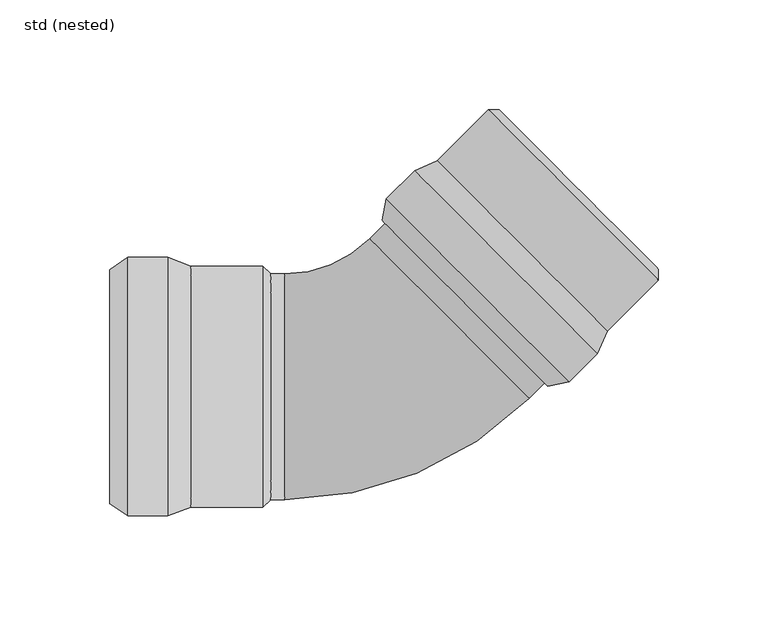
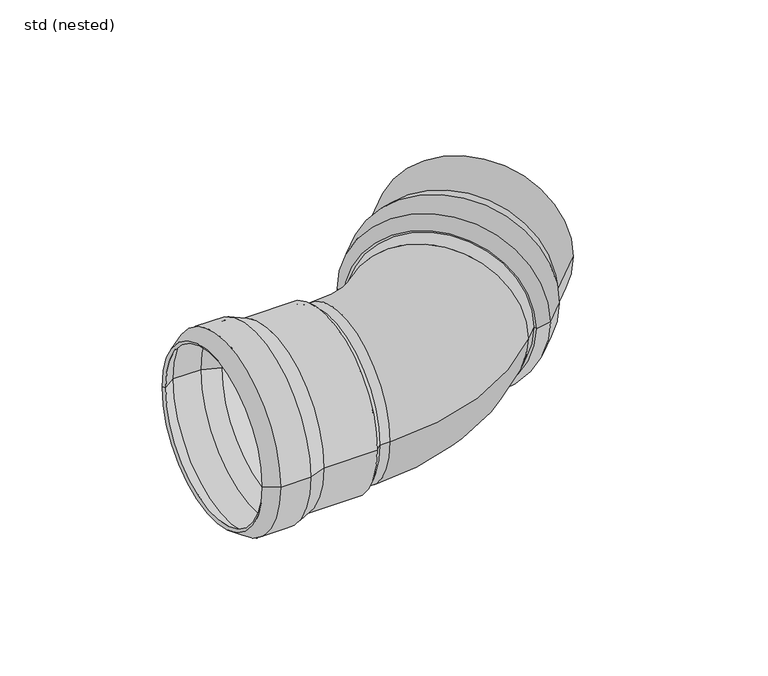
"""IFC4 building model written with IfcOpenShell, lengths in millimetres: pipe fitting geometry, ZZZ_do not use_PIF_ST_UN_GM-X pipe bend_ACO : std (nested)."""

from ifc_helpers import new_model, si_unit, point, frame, origin, place, context, project, spatial, polyline, circle_curve, ellipse_curve, trimmed, source, transform, mapped, element, save
from ifc_brep_helpers import plane_surface, cylinder_surface, revolved_surface, advanced_brep


def std_nested_d12045ae(model_context):
    return source(origin(), model_context, "Body", "AdvancedBrep", [
        advanced_brep(
        [(15.2631369, 98.6320772, 0.0), (98.6506778, 15.142449, 0.0), (85.773464, 2.2809808, 0.0), (2.3859231, 85.770609, 0.0), (25.518995, 103.2219981, 0.0), (103.2531434, 25.3926837, 0.0), (76.014181, 0.3070517, 0.0), (0.4000549, 76.0137485, 0.0), (48.8677894, 126.5422426, 0.0), (126.6019377, 48.7129282, 0.0), (53.8175359, 126.5392146, 0.0), (126.6049657, 53.6626747, 0.0), (51.3411486, 124.0658553, 0.0), (124.1285784, 51.1893155, 0.0), (26.6719325, 101.5468274, 0.0), (101.5793845, 26.5476698, 0.0), (125.1885895, 50.1280066, 0.0), (50.2811375, 125.1271642, 0.0), (16.4160743, 96.9569065, 0.0), (96.976919, 16.2974352, 0.0), (4.2255719, 84.78131, 0.0), (84.7864165, 4.1218387, 0.0), (2.3598725, 75.6148559, 0.0), (75.6176866, 2.2673558, 0.0)],
        [
            (0, 1, circle_curve(frame((56.9569074, 56.8872631, 0.0), z_axis=(-0.7075392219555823, -0.7066740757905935, 0.0), x_axis=(0.7066740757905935, -0.7075392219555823, 0.0)), 59.0)),
            (1, 2),
            (2, 3, circle_curve(frame((44.0796935, 44.0257949, 0.0), z_axis=(0.7075392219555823, 0.7066740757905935, 0.0), x_axis=(0.7066740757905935, -0.7075392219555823, 0.0)), 59.0)),
            (3, 0),
            (1, 0, circle_curve(frame((56.9569074, 56.8872631, 0.0), z_axis=(-0.7075392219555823, -0.7066740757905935, 0.0), x_axis=(0.7066740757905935, -0.7075392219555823, 0.0)), 59.0)),
            (3, 2, circle_curve(frame((44.0796935, 44.0257949, 0.0), z_axis=(0.7075392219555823, 0.7066740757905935, 0.0), x_axis=(0.7066740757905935, -0.7075392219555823, 0.0)), 59.0)),
            (4, 5, circle_curve(frame((64.3860692, 64.3073409, 0.0), z_axis=(-0.7075392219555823, -0.7066740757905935, 0.0), x_axis=(0.7066740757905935, -0.7075392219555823, 0.0)), 55.0)),
            (5, 1),
            (0, 4),
            (5, 4, circle_curve(frame((64.3860692, 64.3073409, 0.0), z_axis=(-0.7075392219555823, -0.7066740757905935, 0.0), x_axis=(0.7066740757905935, -0.7075392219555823, 0.0)), 55.0)),
            (2, 6),
            (6, 7, circle_curve(frame((38.207118, 38.1604001, 0.0), z_axis=(0.7075392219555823, 0.7066740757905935, 0.0), x_axis=(0.7066740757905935, -0.7075392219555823, 0.0)), 53.5)),
            (7, 3),
            (7, 6, circle_curve(frame((38.207118, 38.1604001, 0.0), z_axis=(0.7075392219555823, 0.7066740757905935, 0.0), x_axis=(0.7066740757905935, -0.7075392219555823, 0.0)), 53.5)),
            (8, 9, circle_curve(frame((87.7348635, 87.6275854, 0.0), z_axis=(-0.7075392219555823, -0.7066740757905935, 0.0), x_axis=(0.7066740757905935, -0.7075392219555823, 0.0)), 55.0)),
            (9, 5),
            (4, 8),
            (9, 8, circle_curve(frame((87.7348635, 87.6275854, 0.0), z_axis=(-0.7075392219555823, -0.7066740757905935, 0.0), x_axis=(0.7066740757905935, -0.7075392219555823, 0.0)), 55.0)),
            (10, 11, circle_curve(frame((90.2112508, 90.1009447, 0.0), z_axis=(-0.7075392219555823, -0.7066740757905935, 0.0), x_axis=(0.7066740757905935, -0.7075392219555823, 0.0)), 51.5)),
            (11, 9),
            (8, 10),
            (11, 10, circle_curve(frame((90.2112508, 90.1009447, 0.0), z_axis=(-0.7075392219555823, -0.7066740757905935, 0.0), x_axis=(0.7066740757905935, -0.7075392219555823, 0.0)), 51.5)),
            (12, 13, circle_curve(frame((87.7348635, 87.6275854, 0.0), z_axis=(-0.7075392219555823, -0.7066740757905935, 0.0), x_axis=(0.7066740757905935, -0.7075392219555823, 0.0)), 51.5)),
            (13, 11),
            (10, 12),
            (13, 12, circle_curve(frame((87.7348635, 87.6275854, 0.0), z_axis=(-0.7075392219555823, -0.7066740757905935, 0.0), x_axis=(0.7066740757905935, -0.7075392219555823, 0.0)), 51.5)),
            (14, 15, circle_curve(frame((64.1256585, 64.0472486, 0.0), z_axis=(-0.7075392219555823, -0.7066740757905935, 0.0), x_axis=(0.7066740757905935, -0.7075392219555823, 0.0)), 53.0)),
            (15, 16),
            (16, 17, circle_curve(frame((87.7348635, 87.6275854, 0.0), z_axis=(0.7075392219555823, 0.7066740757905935, 0.0), x_axis=(0.7066740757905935, -0.7075392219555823, 0.0)), 53.0)),
            (17, 14),
            (15, 14, circle_curve(frame((64.1256585, 64.0472486, 0.0), z_axis=(-0.7075392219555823, -0.7066740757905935, 0.0), x_axis=(0.7066740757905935, -0.7075392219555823, 0.0)), 53.0)),
            (17, 16, circle_curve(frame((87.7348635, 87.6275854, 0.0), z_axis=(0.7075392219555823, 0.7066740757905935, 0.0), x_axis=(0.7066740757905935, -0.7075392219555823, 0.0)), 53.0)),
            (18, 19, circle_curve(frame((56.6964967, 56.6271708, 0.0), z_axis=(-0.7075392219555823, -0.7066740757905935, 0.0), x_axis=(0.7066740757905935, -0.7075392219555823, 0.0)), 57.0)),
            (19, 15),
            (14, 18),
            (19, 18, circle_curve(frame((56.6964967, 56.6271708, 0.0), z_axis=(-0.7075392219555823, -0.7066740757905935, 0.0), x_axis=(0.7066740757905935, -0.7075392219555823, 0.0)), 57.0)),
            (20, 21, circle_curve(frame((44.5059942, 44.4515743, 0.0), z_axis=(-0.7075392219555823, -0.7066740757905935, 0.0), x_axis=(0.7066740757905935, -0.7075392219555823, 0.0)), 57.0)),
            (21, 19),
            (18, 20),
            (21, 20, circle_curve(frame((44.5059942, 44.4515743, 0.0), z_axis=(-0.7075392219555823, -0.7066740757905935, 0.0), x_axis=(0.7066740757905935, -0.7075392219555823, 0.0)), 57.0)),
            (22, 23, circle_curve(frame((38.9887795, 38.9411059, 0.0), z_axis=(-0.7075392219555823, -0.7066740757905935, 0.0), x_axis=(0.7066740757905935, -0.7075392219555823, 0.0)), 51.8328156)),
            (23, 21),
            (20, 22),
            (23, 22, circle_curve(frame((38.9887795, 38.9411059, 0.0), z_axis=(-0.7075392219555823, -0.7066740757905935, 0.0), x_axis=(0.7066740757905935, -0.7075392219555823, 0.0)), 51.8328156)),
            (6, 23),
            (22, 7),
            (16, 13),
            (12, 17),
        ],
        [
            cylinder_surface(frame((40.5813283, 40.5317074, 0.0), z_axis=(0.7075392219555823, 0.7066740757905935, 0.0), x_axis=(0.7066740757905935, -0.7075392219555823, 0.0)), 59.0),
            revolved_surface(polyline([(98.6506778, 15.142449, 0.0), (103.2531434, 25.3926837, 0.0)]), (40.5813283, 40.5317074, 0.0), (0.7075392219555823, 0.7066740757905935, 0.0)),
            revolved_surface(polyline([(76.014181, 0.3070517, 0.0), (85.773464, 2.2809808, 0.0)]), (40.5813283, 40.5317074, 0.0), (0.7075392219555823, 0.7066740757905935, 0.0)),
            cylinder_surface(frame((40.5813283, 40.5317074, 0.0), z_axis=(0.7075392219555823, 0.7066740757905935, 0.0), x_axis=(0.7066740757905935, -0.7075392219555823, 0.0)), 55.0),
            revolved_surface(polyline([(126.6019377, 48.7129282, 0.0), (126.6049657, 53.6626747, 0.0)]), (40.5813283, 40.5317074, 0.0), (0.7075392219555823, 0.7066740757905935, 0.0)),
            revolved_surface(polyline([(126.6049656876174, 53.66267478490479, 0.0), (124.12857836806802, 51.1893154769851, 0.0)]), (40.5813283, 40.5317074, 0.0), (0.7075392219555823, 0.7066740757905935, 0.0)),
            revolved_surface(polyline([(125.18858952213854, 50.12800668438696, 0.0), (101.57938444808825, 26.547669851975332, 0.0)]), (40.5813283, 40.5317074, 0.0), (0.7075392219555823, 0.7066740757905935, 0.0)),
            revolved_surface(polyline([(101.5793845, 26.5476698, 0.0), (96.976919, 16.2974352, 0.0)]), (40.5813283, 40.5317074, 0.0), (0.7075392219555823, 0.7066740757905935, 0.0)),
            revolved_surface(polyline([(96.9769189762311, 16.29743522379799, 0.0), (84.78641646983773, 4.121838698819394, 0.0)]), (40.5813283, 40.5317074, 0.0), (0.7075392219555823, 0.7066740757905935, 0.0)),
            revolved_surface(polyline([(84.7864165, 4.1218387, 0.0), (75.6176866, 2.2673558, 0.0)]), (40.5813283, 40.5317074, 0.0), (0.7075392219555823, 0.7066740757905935, 0.0)),
            revolved_surface(polyline([(75.6176866, 2.2673558, 0.0), (76.014181, 0.3070517, 0.0)]), (40.5813283, 40.5317074, 0.0), (0.7075392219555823, 0.7066740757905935, 0.0)),
            plane_surface(frame((87.7348635, 87.6275854, 0.0), z_axis=(-0.7075392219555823, -0.7066740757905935, 0.0), x_axis=(0.7066740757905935, -0.7075392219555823, 0.0))),
        ],
        [
            (0, [[1, 2, 3, 4]]),
            (0, [[5, -4, 6, -2]]),
            (1, [[7, 8, -1, 9]]),
            (1, [[10, -9, -5, -8]]),
            (2, [[-3, 11, 12, 13]]),
            (2, [[-6, -13, 14, -11]]),
            (3, [[15, 16, -7, 17]]),
            (3, [[18, -17, -10, -16]]),
            (4, [[19, 20, -15, 21]]),
            (4, [[22, -21, -18, -20]]),
            (5, [[23, 24, -19, 25]]),
            (5, [[26, -25, -22, -24]]),
            (6, [[27, 28, 29, 30]]),
            (6, [[31, -30, 32, -28]]),
            (7, [[33, 34, -27, 35]]),
            (7, [[36, -35, -31, -34]]),
            (8, [[37, 38, -33, 39]]),
            (8, [[40, -39, -36, -38]]),
            (9, [[41, 42, -37, 43]]),
            (9, [[44, -43, -40, -42]]),
            (10, [[-12, 45, -41, 46]]),
            (10, [[-14, -46, -44, -45]]),
            (11, [[-29, 47, -23, 48]]),
            (11, [[-32, -48, -26, -47]]),
        ],
    ),
        advanced_brep(
        [(-97.5, 59.0, 0.0), (-97.5, -59.0, 0.0), (-115.7, -59.0, 0.0), (-115.7, 59.0, 0.0), (-87.0, 55.0, 0.0), (-87.0, -55.0, 0.0), (-124.0, -53.5, 0.0), (-124.0, 53.5, 0.0), (-54.0, 55.0, 0.0), (-54.0, -55.0, 0.0), (-50.5, 51.5, 0.0), (-50.5, -51.5, 0.0), (-54.0, 51.5, 0.0), (-54.0, -51.5, 0.0), (-87.3680513, 53.0, 0.0), (-87.3680513, -53.0, 0.0), (-54.0, -53.0, 0.0), (-54.0, 53.0, 0.0), (-97.8680513, 57.0, 0.0), (-97.8680513, -57.0, 0.0), (-115.0974883, 57.0, 0.0), (-115.0974883, -57.0, 0.0), (-122.8952393, 51.8328156, 0.0), (-122.8952393, -51.8328156, 0.0)],
        [
            (0, 1, circle_curve(frame((-97.5, 0.0, 0.0), z_axis=(-1.0, 0.0, 0.0), x_axis=(0.0, -1.0, 0.0)), 59.0)),
            (1, 2),
            (2, 3, circle_curve(frame((-115.7, 0.0, 0.0), z_axis=(1.0, 0.0, 0.0), x_axis=(0.0, -1.0, 0.0)), 59.0)),
            (3, 0),
            (1, 0, circle_curve(frame((-97.5, 0.0, 0.0), z_axis=(-1.0, 0.0, 0.0), x_axis=(0.0, -1.0, 0.0)), 59.0)),
            (3, 2, circle_curve(frame((-115.7, 0.0, 0.0), z_axis=(1.0, 0.0, 0.0), x_axis=(0.0, -1.0, 0.0)), 59.0)),
            (4, 5, circle_curve(frame((-87.0, 0.0, 0.0), z_axis=(-1.0, 0.0, 0.0), x_axis=(0.0, -1.0, 0.0)), 55.0)),
            (5, 1),
            (0, 4),
            (5, 4, circle_curve(frame((-87.0, 0.0, 0.0), z_axis=(-1.0, 0.0, 0.0), x_axis=(0.0, -1.0, 0.0)), 55.0)),
            (2, 6),
            (6, 7, circle_curve(frame((-124.0, 0.0, 0.0), z_axis=(1.0, 0.0, 0.0), x_axis=(0.0, -1.0, 0.0)), 53.5)),
            (7, 3),
            (7, 6, circle_curve(frame((-124.0, 0.0, 0.0), z_axis=(1.0, 0.0, 0.0), x_axis=(0.0, -1.0, 0.0)), 53.5)),
            (8, 9, circle_curve(frame((-54.0, 0.0, 0.0), z_axis=(-1.0, 0.0, 0.0), x_axis=(0.0, -1.0, 0.0)), 55.0)),
            (9, 5),
            (4, 8),
            (9, 8, circle_curve(frame((-54.0, 0.0, 0.0), z_axis=(-1.0, 0.0, 0.0), x_axis=(0.0, -1.0, 0.0)), 55.0)),
            (10, 11, circle_curve(frame((-50.5, 0.0, 0.0), z_axis=(-1.0, 0.0, 0.0), x_axis=(0.0, -1.0, 0.0)), 51.5)),
            (11, 9),
            (8, 10),
            (11, 10, circle_curve(frame((-50.5, 0.0, 0.0), z_axis=(-1.0, 0.0, 0.0), x_axis=(0.0, -1.0, 0.0)), 51.5)),
            (12, 13, circle_curve(frame((-54.0, 0.0, 0.0), z_axis=(-1.0, 0.0, 0.0), x_axis=(0.0, -1.0, 0.0)), 51.5)),
            (13, 11),
            (10, 12),
            (13, 12, circle_curve(frame((-54.0, 0.0, 0.0), z_axis=(-1.0, 0.0, 0.0), x_axis=(0.0, -1.0, 0.0)), 51.5)),
            (14, 15, circle_curve(frame((-87.3680513, 0.0, 0.0), z_axis=(-1.0, 0.0, 0.0), x_axis=(0.0, -1.0, 0.0)), 53.0)),
            (15, 16),
            (16, 17, circle_curve(frame((-54.0, 0.0, 0.0), z_axis=(1.0, 0.0, 0.0), x_axis=(0.0, -1.0, 0.0)), 53.0)),
            (17, 14),
            (15, 14, circle_curve(frame((-87.3680513, 0.0, 0.0), z_axis=(-1.0, 0.0, 0.0), x_axis=(0.0, -1.0, 0.0)), 53.0)),
            (17, 16, circle_curve(frame((-54.0, 0.0, 0.0), z_axis=(1.0, 0.0, 0.0), x_axis=(0.0, -1.0, 0.0)), 53.0)),
            (18, 19, circle_curve(frame((-97.8680513, 0.0, 0.0), z_axis=(-1.0, 0.0, 0.0), x_axis=(0.0, -1.0, 0.0)), 57.0)),
            (19, 15),
            (14, 18),
            (19, 18, circle_curve(frame((-97.8680513, 0.0, 0.0), z_axis=(-1.0, 0.0, 0.0), x_axis=(0.0, -1.0, 0.0)), 57.0)),
            (20, 21, circle_curve(frame((-115.0974883, 0.0, 0.0), z_axis=(-1.0, 0.0, 0.0), x_axis=(0.0, -1.0, 0.0)), 57.0)),
            (21, 19),
            (18, 20),
            (21, 20, circle_curve(frame((-115.0974883, 0.0, 0.0), z_axis=(-1.0, 0.0, 0.0), x_axis=(0.0, -1.0, 0.0)), 57.0)),
            (22, 23, circle_curve(frame((-122.8952393, 0.0, 0.0), z_axis=(-1.0, 0.0, 0.0), x_axis=(0.0, -1.0, 0.0)), 51.8328156)),
            (23, 21),
            (20, 22),
            (23, 22, circle_curve(frame((-122.8952393, 0.0, 0.0), z_axis=(-1.0, 0.0, 0.0), x_axis=(0.0, -1.0, 0.0)), 51.8328156)),
            (6, 23),
            (22, 7),
            (16, 13),
            (12, 17),
        ],
        [
            cylinder_surface(frame((-120.6444117, 0.0, 0.0), z_axis=(1.0, 0.0, 0.0), x_axis=(0.0, -1.0, 0.0)), 59.0),
            revolved_surface(polyline([(-97.5, -59.0, 0.0), (-87.0, -55.0, 0.0)]), (-120.6444117, 0.0, 0.0), (1.0, 0.0, 0.0)),
            revolved_surface(polyline([(-124.0, -53.5, 0.0), (-115.7, -59.0, 0.0)]), (-120.6444117, 0.0, 0.0), (1.0, 0.0, 0.0)),
            cylinder_surface(frame((-120.6444117, 0.0, 0.0), z_axis=(1.0, 0.0, 0.0), x_axis=(0.0, -1.0, 0.0)), 55.0),
            revolved_surface(polyline([(-54.0, -55.0, 0.0), (-50.5, -51.5, 0.0)]), (-120.6444117, 0.0, 0.0), (1.0, 0.0, 0.0)),
            revolved_surface(polyline([(-50.5, -51.5, 0.0), (-54.0, -51.5, 0.0)]), (-120.6444117, 0.0, 0.0), (1.0, 0.0, 0.0)),
            revolved_surface(polyline([(-54.0, -53.0, 0.0), (-87.3680513, -53.0, 0.0)]), (-120.6444117, 0.0, 0.0), (1.0, 0.0, 0.0)),
            revolved_surface(polyline([(-87.3680513, -53.0, 0.0), (-97.8680513, -57.0, 0.0)]), (-120.6444117, 0.0, 0.0), (1.0, 0.0, 0.0)),
            revolved_surface(polyline([(-97.8680513, -57.0, 0.0), (-115.0974883, -57.0, 0.0)]), (-120.6444117, 0.0, 0.0), (1.0, 0.0, 0.0)),
            revolved_surface(polyline([(-115.0974883, -57.0, 0.0), (-122.8952393, -51.8328156, 0.0)]), (-120.6444117, 0.0, 0.0), (1.0, 0.0, 0.0)),
            revolved_surface(polyline([(-122.8952393, -51.8328156, 0.0), (-124.0, -53.5, 0.0)]), (-120.6444117, 0.0, 0.0), (1.0, 0.0, 0.0)),
            plane_surface(frame((-54.0, 0.0, 0.0), z_axis=(-1.0, 0.0, 0.0), x_axis=(0.0, -1.0, 0.0))),
        ],
        [
            (0, [[1, 2, 3, 4]]),
            (0, [[5, -4, 6, -2]]),
            (1, [[7, 8, -1, 9]]),
            (1, [[10, -9, -5, -8]]),
            (2, [[-3, 11, 12, 13]]),
            (2, [[-6, -13, 14, -11]]),
            (3, [[15, 16, -7, 17]]),
            (3, [[18, -17, -10, -16]]),
            (4, [[19, 20, -15, 21]]),
            (4, [[22, -21, -18, -20]]),
            (5, [[23, 24, -19, 25]]),
            (5, [[26, -25, -22, -24]]),
            (6, [[27, 28, 29, 30]]),
            (6, [[31, -30, 32, -28]]),
            (7, [[33, 34, -27, 35]]),
            (7, [[36, -35, -31, -34]]),
            (8, [[37, 38, -33, 39]]),
            (8, [[40, -39, -36, -38]]),
            (9, [[41, 42, -37, 43]]),
            (9, [[44, -43, -40, -42]]),
            (10, [[-12, 45, -41, 46]]),
            (10, [[-14, -46, -44, -45]]),
            (11, [[-29, 47, -23, 48]]),
            (11, [[-32, -48, -26, -47]]),
        ],
    ),
        advanced_brep(
        [(-5.2619891, 67.5319293, 0.0), (-44.0, 51.5, 0.0), (-44.0, -51.5, 0.0), (67.5254407, -5.3446106, 0.0), (31.1317258, 31.0936593, 51.5), (31.1317258, 31.0936593, -51.5), (-54.0, -51.5, 0.0), (-54.0, 51.5, 0.0), (124.1285784, 51.1893155, 0.0), (51.3411486, 124.0658553, 0.0)],
        [
            (0, 1, circle_curve(frame((-44.0, 106.3173652, 0.0), z_axis=(0.0, 0.0, -1.0), x_axis=(0.0, -1.0, 0.0)), 54.8173652)),
            (1, 2, circle_curve(frame((-44.0, 0.0, 0.0), z_axis=(1.0, 0.0, 0.0), x_axis=(0.0, 1.0, 0.0)), 51.5)),
            (2, 3, circle_curve(frame((-44.0, 106.3173652, 0.0), z_axis=(0.0, 0.0, 1.0), x_axis=(0.0, -1.0, 0.0)), 157.8173652)),
            (3, 4, circle_curve(frame((31.1317258, 31.0936593, 0.0), z_axis=(-0.707539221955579, -0.7066740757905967, 0.0), x_axis=(-0.7066740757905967, 0.707539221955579, 0.0)), 51.5)),
            (4, 0, circle_curve(frame((31.1317258, 31.0936593, 0.0), z_axis=(-0.707539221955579, -0.7066740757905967, 0.0), x_axis=(-0.7066740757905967, 0.707539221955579, 0.0)), 51.5)),
            (0, 5, circle_curve(frame((31.1317258, 31.0936593, 0.0), z_axis=(-0.707539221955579, -0.7066740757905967, 0.0), x_axis=(-0.7066740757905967, 0.707539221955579, 0.0)), 51.5)),
            (5, 3, circle_curve(frame((31.1317258, 31.0936593, 0.0), z_axis=(-0.7075392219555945, -0.7066740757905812, 0.0), x_axis=(-0.7066740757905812, 0.7075392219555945, 0.0)), 51.5)),
            (2, 1, circle_curve(frame((-44.0, 0.0, 0.0), z_axis=(1.0, 0.0, 0.0), x_axis=(0.0, 1.0, 0.0)), 51.5)),
            (6, 7, circle_curve(frame((-54.0, 0.0, 0.0), z_axis=(-1.0, 0.0, 0.0), x_axis=(0.0, 1.0, 0.0)), 51.5)),
            (7, 6, circle_curve(frame((-54.0, 0.0, 0.0), z_axis=(-1.0, 0.0, 0.0), x_axis=(0.0, 1.0, 0.0)), 51.5)),
            (7, 1),
            (2, 6),
            (8, 9, circle_curve(frame((87.7348635, 87.6275854, 0.0), z_axis=(0.7075392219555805, 0.7066740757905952, 0.0), x_axis=(-0.7066740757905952, 0.7075392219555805, 0.0)), 51.5)),
            (9, 8, circle_curve(frame((87.7348635, 87.6275854, 0.0), z_axis=(0.7075392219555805, 0.7066740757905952, 0.0), x_axis=(-0.7066740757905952, 0.7075392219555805, 0.0)), 51.5)),
            (9, 0),
            (3, 8),
        ],
        [
            revolved_surface(trimmed(ellipse_curve(frame((-44.0, 0.0, 0.0), z_axis=(-1.0, 0.0, 0.0), x_axis=(0.0, 1.0, 0.0)), 51.5, 51.5), [point((-44.0, -51.5, 0.0))], [point((-44.0, 51.5, 0.0))], True, "CARTESIAN"), (-44.0, 106.3173652, 0.0), (0.0, 0.0, 1.0)),
            revolved_surface(trimmed(ellipse_curve(frame((-44.0, 0.0, 0.0), z_axis=(-1.0, 0.0, 0.0), x_axis=(0.0, 1.0, 0.0)), 51.5, 51.5), [point((-44.0, 51.5, 0.0))], [point((-44.0, -51.5, 0.0))], True, "CARTESIAN"), (-44.0, 106.3173652, 0.0), (0.0, 0.0, 1.0)),
            plane_surface(frame((-54.0, 51.5, 0.0), z_axis=(-1.0, 0.0, 0.0), x_axis=(0.0, 0.0, -1.0))),
            cylinder_surface(frame((-54.0, 0.0, 0.0), z_axis=(1.0, 0.0, 0.0), x_axis=(0.0, 1.0, 0.0)), 51.5),
            plane_surface(frame((87.7348635, 87.6275854, 0.0), z_axis=(0.7075392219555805, 0.7066740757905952, 0.0), x_axis=(0.0, 0.0, 1.0))),
            cylinder_surface(frame((31.1317258, 31.0936593, 0.0), z_axis=(-0.7075392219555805, -0.7066740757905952, 0.0), x_axis=(-0.7066740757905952, 0.7075392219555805, 0.0)), 51.5),
        ],
        [
            (0, [[1, 2, 3, 4, 5]]),
            (1, [[-1, 6, 7, -3, 8]]),
            (2, [[9, 10]]),
            (3, [[-10, 11, -8, 12]]),
            (3, [[-9, -12, -2, -11]]),
            (4, [[13, 14]]),
            (5, [[-14, 15, -5, -4, 16]]),
            (5, [[-13, -16, -7, -6, -15]]),
        ],
    ),
    ])


if __name__ == "__main__":
    model = new_model("IFC4")
    model_context = context("Model", 3, world=origin())
    ifc_project = project(units=[si_unit("LENGTHUNIT", "METRE", prefix="MILLI")], contexts=[model_context])
    site = spatial("IfcSite", under=ifc_project)
    building = spatial("IfcBuilding", under=site)
    placement = place(None, origin())
    std_nested_shape = std_nested_d12045ae(model_context)
    element("IfcPipeFitting", 1, ObjectType="ZZZ_do not use_PIF_ST_UN_GM-X pipe bend_ACO : std (nested)", at=placement, inside=building, context=model_context, shape_type="MappedRepresentation", body=[
        mapped(std_nested_shape, transform((0.0, 0.0, 0.0), x_axis=(1.0, 0.0, 0.0), y_axis=(0.0, 1.0, 0.0), z_axis=(0.0, 0.0, 1.0))),
    ])
    save(model, "model.ifc")
